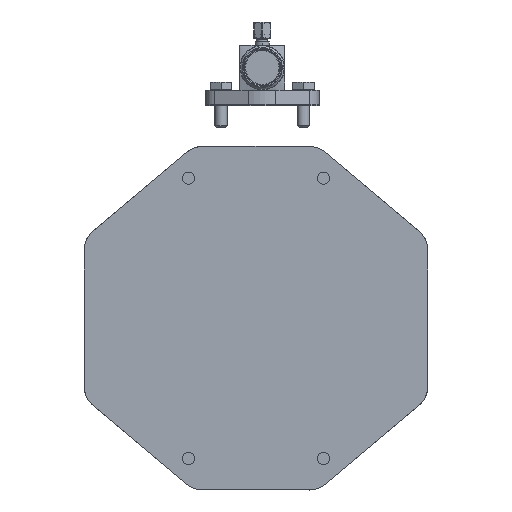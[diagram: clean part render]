
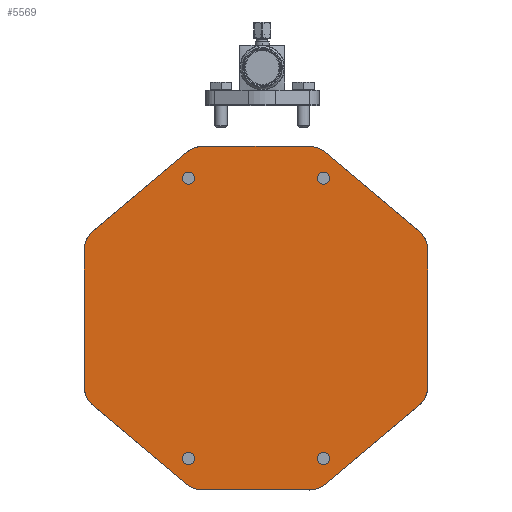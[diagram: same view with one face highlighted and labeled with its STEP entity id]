
A CAD part, left-side view. The second image highlights one B-rep face of the part: STEP entity #5569.
In plain terms, the highlighted planar face has unit normal (-1, 0, 0) as drawn and (0, 0, -1) by its records, which use the part's own axes.
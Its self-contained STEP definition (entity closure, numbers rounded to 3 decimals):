
#2709=FACE_BOUND('',#7634,.T.);
#2710=FACE_BOUND('',#7635,.T.);
#2711=FACE_BOUND('',#7636,.T.);
#2712=FACE_BOUND('',#7637,.T.);
#2713=FACE_BOUND('',#7638,.T.);
#3250=LINE('',#22036,#4272);
#3253=LINE('',#22048,#4275);
#3257=LINE('',#22057,#4279);
#3260=LINE('',#22069,#4282);
#3262=LINE('',#22073,#4284);
#3267=LINE('',#22090,#4289);
#3271=LINE('',#22099,#4293);
#3274=LINE('',#22111,#4296);
#4272=VECTOR('',#17982,1.);
#4275=VECTOR('',#17987,1.);
#4279=VECTOR('',#17993,1.);
#4282=VECTOR('',#17998,1.);
#4284=VECTOR('',#18002,1.);
#4289=VECTOR('',#18009,1.);
#4293=VECTOR('',#18015,1.);
#4296=VECTOR('',#18020,1.);
#5569=ADVANCED_FACE('',(#2709,#2710,#2711,#2712,#2713),#6285,.T.);
#6285=PLANE('',#16871);
#7634=EDGE_LOOP('',(#9455));
#7635=EDGE_LOOP('',(#9456));
#7636=EDGE_LOOP('',(#9457));
#7637=EDGE_LOOP('',(#9458));
#7638=EDGE_LOOP('',(#9459,#9460,#9461,#9462,#9463,#9464,#9465,#9466,#9467,
#9468,#9469,#9470,#9471,#9472,#9473,#9474));
#9455=ORIENTED_EDGE('',*,*,#14306,.T.);
#9456=ORIENTED_EDGE('',*,*,#14305,.T.);
#9457=ORIENTED_EDGE('',*,*,#14307,.T.);
#9458=ORIENTED_EDGE('',*,*,#14308,.T.);
#9459=ORIENTED_EDGE('',*,*,#13731,.T.);
#9460=ORIENTED_EDGE('',*,*,#13741,.T.);
#9461=ORIENTED_EDGE('',*,*,#13725,.T.);
#9462=ORIENTED_EDGE('',*,*,#13762,.T.);
#9463=ORIENTED_EDGE('',*,*,#13723,.T.);
#9464=ORIENTED_EDGE('',*,*,#13759,.T.);
#9465=ORIENTED_EDGE('',*,*,#13719,.T.);
#9466=ORIENTED_EDGE('',*,*,#13755,.T.);
#9467=ORIENTED_EDGE('',*,*,#13715,.T.);
#9468=ORIENTED_EDGE('',*,*,#13751,.T.);
#9469=ORIENTED_EDGE('',*,*,#13711,.T.);
#9470=ORIENTED_EDGE('',*,*,#13749,.T.);
#9471=ORIENTED_EDGE('',*,*,#13739,.T.);
#9472=ORIENTED_EDGE('',*,*,#13747,.T.);
#9473=ORIENTED_EDGE('',*,*,#13735,.T.);
#9474=ORIENTED_EDGE('',*,*,#13744,.T.);
#12361=VERTEX_POINT('',#22035);
#12362=VERTEX_POINT('',#22037);
#12365=VERTEX_POINT('',#22047);
#12366=VERTEX_POINT('',#22049);
#12369=VERTEX_POINT('',#22056);
#12370=VERTEX_POINT('',#22058);
#12373=VERTEX_POINT('',#22068);
#12374=VERTEX_POINT('',#22070);
#12375=VERTEX_POINT('',#22074);
#12376=VERTEX_POINT('',#22075);
#12381=VERTEX_POINT('',#22089);
#12382=VERTEX_POINT('',#22091);
#12385=VERTEX_POINT('',#22098);
#12386=VERTEX_POINT('',#22100);
#12389=VERTEX_POINT('',#22110);
#12390=VERTEX_POINT('',#22112);
#12755=VERTEX_POINT('',#24711);
#12756=VERTEX_POINT('',#24714);
#12757=VERTEX_POINT('',#24717);
#12758=VERTEX_POINT('',#24720);
#13711=EDGE_CURVE('',#12362,#12361,#3250,.T.);
#13715=EDGE_CURVE('',#12366,#12365,#3253,.T.);
#13719=EDGE_CURVE('',#12370,#12369,#3257,.T.);
#13723=EDGE_CURVE('',#12374,#12373,#3260,.T.);
#13725=EDGE_CURVE('',#12375,#12376,#3262,.T.);
#13731=EDGE_CURVE('',#12382,#12381,#3267,.T.);
#13735=EDGE_CURVE('',#12386,#12385,#3271,.T.);
#13739=EDGE_CURVE('',#12390,#12389,#3274,.T.);
#13741=EDGE_CURVE('',#12381,#12375,#15753,.T.);
#13744=EDGE_CURVE('',#12385,#12382,#15754,.T.);
#13747=EDGE_CURVE('',#12389,#12386,#15755,.T.);
#13749=EDGE_CURVE('',#12361,#12390,#15756,.T.);
#13751=EDGE_CURVE('',#12365,#12362,#15757,.T.);
#13755=EDGE_CURVE('',#12369,#12366,#15758,.T.);
#13759=EDGE_CURVE('',#12373,#12370,#15759,.T.);
#13762=EDGE_CURVE('',#12376,#12374,#15760,.T.);
#14305=EDGE_CURVE('',#12755,#12755,#15917,.T.);
#14306=EDGE_CURVE('',#12756,#12756,#15918,.T.);
#14307=EDGE_CURVE('',#12757,#12757,#15919,.T.);
#14308=EDGE_CURVE('',#12758,#12758,#15920,.T.);
#15753=CIRCLE('',#16462,20.);
#15754=CIRCLE('',#16464,20.);
#15755=CIRCLE('',#16466,20.);
#15756=CIRCLE('',#16468,20.);
#15757=CIRCLE('',#16470,20.);
#15758=CIRCLE('',#16472,20.);
#15759=CIRCLE('',#16474,20.);
#15760=CIRCLE('',#16476,20.);
#15917=CIRCLE('',#16863,4.866);
#15918=CIRCLE('',#16865,4.866);
#15919=CIRCLE('',#16867,4.866);
#15920=CIRCLE('',#16869,4.866);
#16462=AXIS2_PLACEMENT_3D('',#22115,#18024,#18025);
#16464=AXIS2_PLACEMENT_3D('',#22128,#18028,#18029);
#16466=AXIS2_PLACEMENT_3D('',#22141,#18032,#18033);
#16468=AXIS2_PLACEMENT_3D('',#22147,#18036,#18037);
#16470=AXIS2_PLACEMENT_3D('',#22153,#18040,#18041);
#16472=AXIS2_PLACEMENT_3D('',#22171,#18044,#18045);
#16474=AXIS2_PLACEMENT_3D('',#22189,#18048,#18049);
#16476=AXIS2_PLACEMENT_3D('',#22200,#18052,#18053);
#16863=AXIS2_PLACEMENT_3D('',#24710,#19094,#19095);
#16865=AXIS2_PLACEMENT_3D('',#24713,#19098,#19099);
#16867=AXIS2_PLACEMENT_3D('',#24716,#19102,#19103);
#16869=AXIS2_PLACEMENT_3D('',#24719,#19106,#19107);
#16871=AXIS2_PLACEMENT_3D('',#24722,#19110,#19111);
#17982=DIRECTION('',(0.766,0.643,0.));
#17987=DIRECTION('',(0.,1.,0.));
#17993=DIRECTION('',(-0.766,0.643,0.));
#17998=DIRECTION('',(-1.,0.,0.));
#18002=DIRECTION('',(-0.766,-0.643,0.));
#18009=DIRECTION('',(0.,-1.,0.));
#18015=DIRECTION('',(0.766,-0.643,0.));
#18020=DIRECTION('',(1.,0.,0.));
#18024=DIRECTION('',(0.,0.,-1.));
#18025=DIRECTION('',(-1.,0.,0.));
#18028=DIRECTION('',(0.,0.,-1.));
#18029=DIRECTION('',(-1.,0.,0.));
#18032=DIRECTION('',(0.,0.,-1.));
#18033=DIRECTION('',(-1.,0.,0.));
#18036=DIRECTION('',(0.,0.,-1.));
#18037=DIRECTION('',(-1.,0.,0.));
#18040=DIRECTION('',(0.,0.,-1.));
#18041=DIRECTION('',(-1.,0.,0.));
#18044=DIRECTION('',(0.,0.,-1.));
#18045=DIRECTION('',(-1.,0.,0.));
#18048=DIRECTION('',(0.,0.,-1.));
#18049=DIRECTION('',(-1.,0.,0.));
#18052=DIRECTION('',(0.,0.,-1.));
#18053=DIRECTION('',(-1.,0.,0.));
#19094=DIRECTION('',(0.,0.,1.));
#19095=DIRECTION('',(-1.,0.,0.));
#19098=DIRECTION('',(0.,0.,1.));
#19099=DIRECTION('',(-1.,0.,0.));
#19102=DIRECTION('',(0.,0.,1.));
#19103=DIRECTION('',(-1.,0.,0.));
#19106=DIRECTION('',(0.,0.,1.));
#19107=DIRECTION('',(-1.,0.,0.));
#19110=DIRECTION('',(0.,0.,-1.));
#19111=DIRECTION('',(0.,1.,0.));
#22035=CARTESIAN_POINT('',(-8.66,183.231,413.));
#22036=CARTESIAN_POINT('',(-90.581,114.417,413.));
#22037=CARTESIAN_POINT('',(-83.445,120.412,413.));
#22047=CARTESIAN_POINT('',(-90.581,105.098,413.));
#22048=CARTESIAN_POINT('',(-90.581,-13.583,413.));
#22049=CARTESIAN_POINT('',(-90.581,-4.263,413.));
#22056=CARTESIAN_POINT('',(-83.445,-19.577,413.));
#22057=CARTESIAN_POINT('',(-3.081,-87.083,413.));
#22058=CARTESIAN_POINT('',(-8.66,-82.397,413.));
#22068=CARTESIAN_POINT('',(4.204,-87.083,413.));
#22069=CARTESIAN_POINT('',(96.919,-87.083,413.));
#22070=CARTESIAN_POINT('',(89.634,-87.083,413.));
#22073=CARTESIAN_POINT('',(184.419,-13.583,413.));
#22074=CARTESIAN_POINT('',(177.283,-19.577,413.));
#22075=CARTESIAN_POINT('',(102.497,-82.397,413.));
#22089=CARTESIAN_POINT('',(184.419,-4.263,413.));
#22090=CARTESIAN_POINT('',(184.419,114.417,413.));
#22091=CARTESIAN_POINT('',(184.419,105.098,413.));
#22098=CARTESIAN_POINT('',(177.283,120.412,413.));
#22099=CARTESIAN_POINT('',(96.919,187.917,413.));
#22100=CARTESIAN_POINT('',(102.497,183.231,413.));
#22110=CARTESIAN_POINT('',(89.634,187.917,413.));
#22111=CARTESIAN_POINT('',(-3.081,187.917,413.));
#22112=CARTESIAN_POINT('',(4.204,187.917,413.));
#22115=CARTESIAN_POINT('',(164.419,-4.263,413.));
#22128=CARTESIAN_POINT('',(164.419,105.098,413.));
#22141=CARTESIAN_POINT('',(89.634,167.917,413.));
#22147=CARTESIAN_POINT('',(4.204,167.917,413.));
#22153=CARTESIAN_POINT('',(-70.581,105.098,413.));
#22171=CARTESIAN_POINT('',(-70.581,-4.263,413.));
#22189=CARTESIAN_POINT('',(4.204,-67.083,413.));
#22200=CARTESIAN_POINT('',(89.634,-67.083,413.));
#24710=CARTESIAN_POINT('',(100.938,162.589,413.));
#24711=CARTESIAN_POINT('',(96.072,162.589,413.));
#24713=CARTESIAN_POINT('',(100.94,-61.752,413.));
#24714=CARTESIAN_POINT('',(96.074,-61.752,413.));
#24716=CARTESIAN_POINT('',(-7.098,-61.753,413.));
#24717=CARTESIAN_POINT('',(-11.964,-61.753,413.));
#24719=CARTESIAN_POINT('',(-7.1,162.588,413.));
#24720=CARTESIAN_POINT('',(-11.966,162.588,413.));
#24722=CARTESIAN_POINT('',(-90.581,-13.583,413.));
